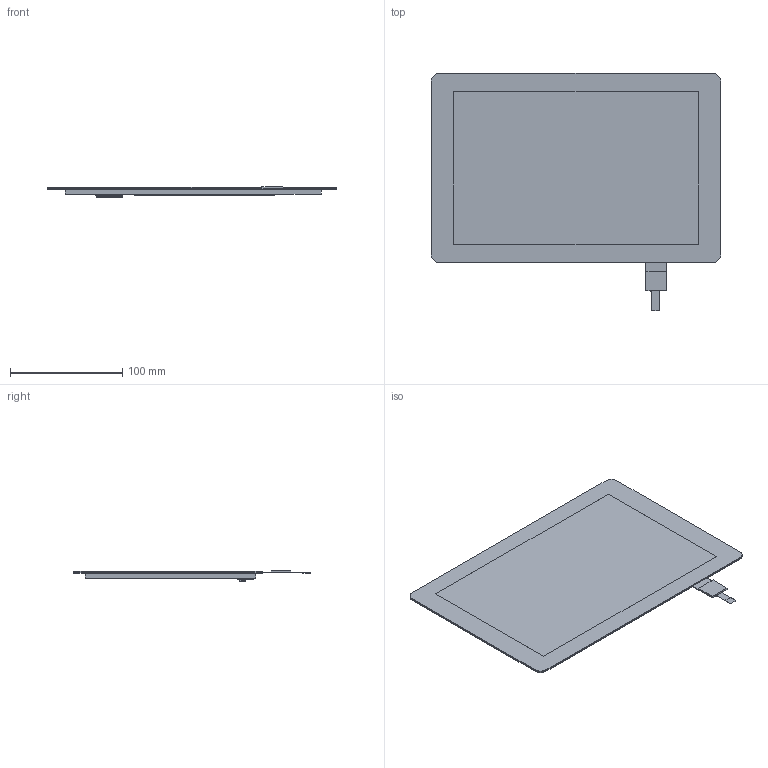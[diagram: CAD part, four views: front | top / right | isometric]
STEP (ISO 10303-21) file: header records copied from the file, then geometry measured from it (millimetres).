
FILE_DESCRIPTION (( 'STEP AP214' ), '1' );
FILE_NAME ('MOP-TFT1280800-10.1G Rev.A.STEP', '2025-09-23T20:26:56', ( '' ), ( '' ), 'SwSTEP 2.0', 'SolidWorks 2021', '' );
FILE_SCHEMA (( 'AUTOMOTIVE_DESIGN' ));
Length unit declared in the file: millimetre
Products named in the file (4): MOP-TFT1280800-10.1A; TPC(G) OPT; MOP-TFT1280800-10.1G Rev.A; XF2M_4015_1A
Assembly tree (3 placements, depth 2):
  MOP-TFT1280800-10.1G Rev.A
    MOP-TFT1280800-10.1A
    XF2M_4015_1A
    TPC(G) OPT
Bounding box: 257.96 x 211.54 x 9.14 mm (x, y, z)
Volume: 222796.3 mm3; surface area: 271946.2 mm2
Topology: 9 solids, 9 shells, 1618 faces, 4663 edges, 3108 vertices
Faces by surface type: plane 1599, cylinder 19
Entity records: 59665 total; most frequent: CARTESIAN_POINT 9395, ORIENTED_EDGE 9326, DIRECTION 7949, EDGE_CURVE 4663, VECTOR 4625, LINE 4625, VERTEX_POINT 3108, EDGE_LOOP 1667
